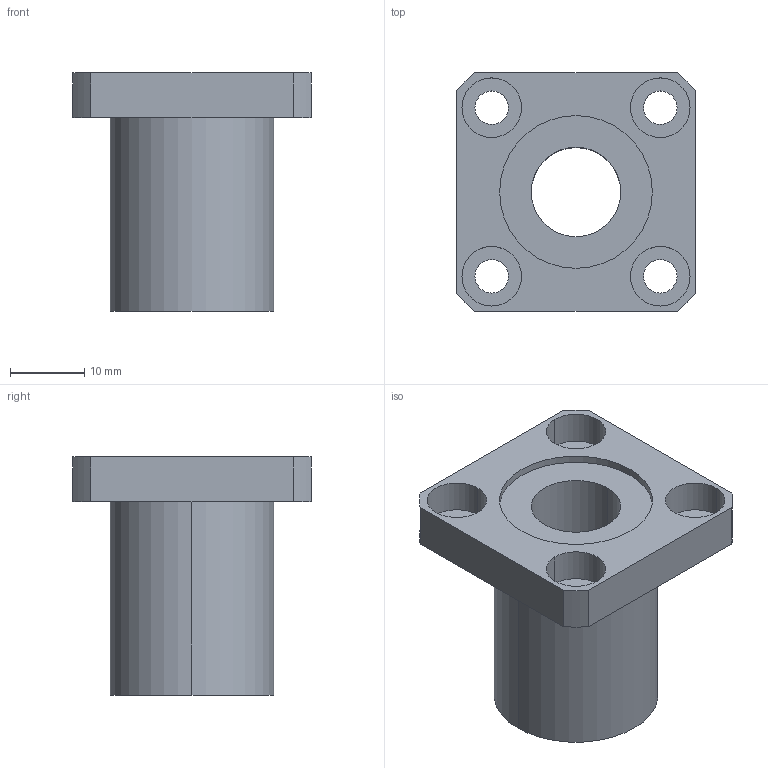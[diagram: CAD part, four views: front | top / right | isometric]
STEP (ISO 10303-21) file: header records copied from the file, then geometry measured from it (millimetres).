
FILE_DESCRIPTION((''),'2;1');
FILE_NAME('C:\Documents and Settings\ｿﾀﾀ蠑ｷ1\ｹﾙﾅﾁ ﾈｭｸ饅\ｺﾎﾇｰﾆﾄﾀﾏ\ﾁｦﾇｰ\LMEK__UU\LMEK12UU.stp','2005-06-15T10:57:49',('ｿﾀﾀ蠑ｷ1'),(''),'Autodesk Inventor 9','Autodesk Inventor 9','');
FILE_SCHEMA(('AUTOMOTIVE_DESIGN { 1 0 10303 214 1 1 1 1 }'));
Length unit declared in the file: millimetre
Products named in the file (1): LMEK__(L)
Bounding box: 32 x 32 x 32 mm (x, y, z)
Volume: 10922.7 mm3; surface area: 5996.7 mm2
Topology: 1 solids, 1 shells, 41 faces, 96 edges, 64 vertices
Faces by surface type: bspline 20, cylinder 12, plane 9
Entity records: 1457 total; most frequent: CARTESIAN_POINT 486, DIRECTION 196, ORIENTED_EDGE 192, EDGE_CURVE 96, AXIS2_PLACEMENT_3D 78, VERTEX_POINT 64, EDGE_LOOP 58, CIRCLE 56
